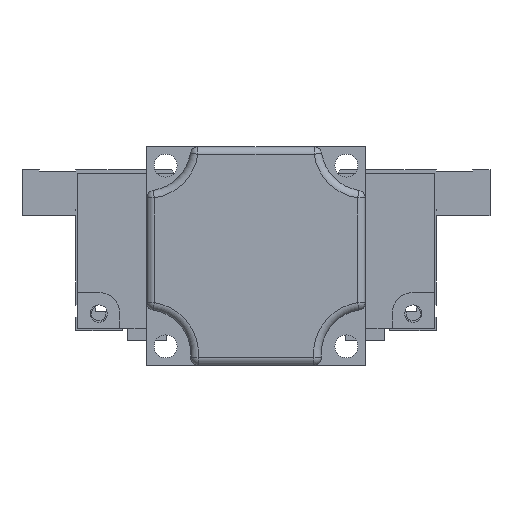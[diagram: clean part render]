
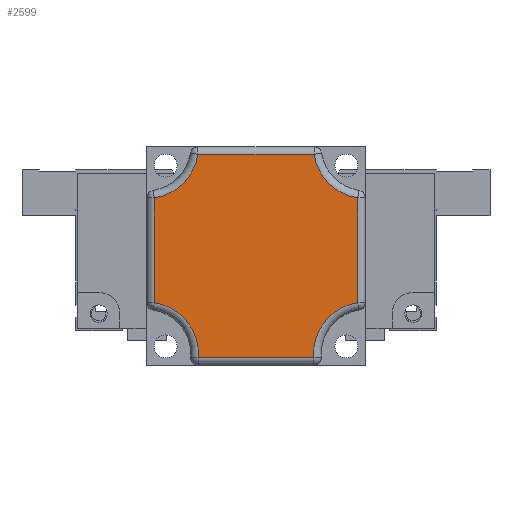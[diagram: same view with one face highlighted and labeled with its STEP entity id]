
A CAD part, front view. The second image highlights one B-rep face of the part: STEP entity #2599.
In plain terms, the highlighted planar face has unit normal (0, -1, 0).
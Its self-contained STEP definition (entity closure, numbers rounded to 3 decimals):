
#2538 = VERTEX_POINT ( 'NONE', #8473 ) ;
#2539 = ORIENTED_EDGE ( 'NONE', *, *, #2608, .T. ) ;
#2540 = EDGE_CURVE ( 'NONE', #2600, #2597, #8478, .T. ) ;
#2542 = EDGE_LOOP ( 'NONE', ( #2547, #2601, #2604, #2539, #2588, #2606, #2609, #2587 ) ) ;
#2547 = ORIENTED_EDGE ( 'NONE', *, *, #2555, .T. ) ;
#2549 = VERTEX_POINT ( 'NONE', #8464 ) ;
#2555 = EDGE_CURVE ( 'NONE', #2538, #2600, #8506, .T. ) ;
#2587 = ORIENTED_EDGE ( 'NONE', *, *, #2593, .T. ) ;
#2588 = ORIENTED_EDGE ( 'NONE', *, *, #2611, .T. ) ;
#2589 = EDGE_CURVE ( 'NONE', #2610, #2549, #8534, .T. ) ;
#2590 = VERTEX_POINT ( 'NONE', #8575 ) ;
#2591 = EDGE_CURVE ( 'NONE', #2549, #2590, #8536, .T. ) ;
#2593 = EDGE_CURVE ( 'NONE', #2590, #2538, #8527, .T. ) ;
#2597 = VERTEX_POINT ( 'NONE', #8556 ) ;
#2599 = ADVANCED_FACE ( 'NONE', ( #8552 ), #8564, .F. ) ;
#2600 = VERTEX_POINT ( 'NONE', #8558 ) ;
#2601 = ORIENTED_EDGE ( 'NONE', *, *, #2540, .T. ) ;
#2602 = VERTEX_POINT ( 'NONE', #8550 ) ;
#2604 = ORIENTED_EDGE ( 'NONE', *, *, #2605, .T. ) ;
#2605 = EDGE_CURVE ( 'NONE', #2597, #2602, #8601, .T. ) ;
#2606 = ORIENTED_EDGE ( 'NONE', *, *, #2589, .T. ) ;
#2607 = VERTEX_POINT ( 'NONE', #8549 ) ;
#2608 = EDGE_CURVE ( 'NONE', #2602, #2607, #8602, .T. ) ;
#2609 = ORIENTED_EDGE ( 'NONE', *, *, #2591, .T. ) ;
#2610 = VERTEX_POINT ( 'NONE', #8567 ) ;
#2611 = EDGE_CURVE ( 'NONE', #2607, #2610, #8594, .T. ) ;
#8464 = CARTESIAN_POINT ( 'NONE',  ( -26.5, -144.5, 13.649 ) ) ;
#8467 = DIRECTION ( 'NONE',  ( 0., 0., 1. ) ) ;
#8468 = DIRECTION ( 'NONE',  ( 0., 1., 0. ) ) ;
#8469 = CARTESIAN_POINT ( 'NONE',  ( 28.5, -144.5, -27. ) ) ;
#8470 = AXIS2_PLACEMENT_3D ( 'NONE', #8469, #8468, #8467 ) ;
#8473 = CARTESIAN_POINT ( 'NONE',  ( -15.037, -144.5, -28. ) ) ;
#8478 = CIRCLE ( 'NONE', #8470, 13.5 ) ;
#8503 = DIRECTION ( 'NONE',  ( 1., 0., 0. ) ) ;
#8504 = VECTOR ( 'NONE', #8503, 1000. ) ;
#8505 = CARTESIAN_POINT ( 'NONE',  ( 28.5, -144.5, -28. ) ) ;
#8506 = LINE ( 'NONE', #8505, #8504 ) ;
#8516 = AXIS2_PLACEMENT_3D ( 'NONE', #8574, #8555, #8554 ) ;
#8527 = CIRCLE ( 'NONE', #8516, 13.5 ) ;
#8534 = CIRCLE ( 'NONE', #8573, 13.5 ) ;
#8535 = CARTESIAN_POINT ( 'NONE',  ( -26.5, -144.5, 27. ) ) ;
#8536 = LINE ( 'NONE', #8535, #8566 ) ;
#8544 = CARTESIAN_POINT ( 'NONE',  ( 28.5, -144.5, 27. ) ) ;
#8548 = DIRECTION ( 'NONE',  ( 0., 0., 1. ) ) ;
#8549 = CARTESIAN_POINT ( 'NONE',  ( 15.149, -144.5, 25. ) ) ;
#8550 = CARTESIAN_POINT ( 'NONE',  ( 26.5, -144.5, 13.649 ) ) ;
#8552 = FACE_OUTER_BOUND ( 'NONE', #2542, .T. ) ;
#8553 = AXIS2_PLACEMENT_3D ( 'NONE', #8569, #8568, #8548 ) ;
#8554 = DIRECTION ( 'NONE',  ( 0., 0., 1. ) ) ;
#8555 = DIRECTION ( 'NONE',  ( 0., 1., 0. ) ) ;
#8556 = CARTESIAN_POINT ( 'NONE',  ( 26.5, -144.5, -13.649 ) ) ;
#8558 = CARTESIAN_POINT ( 'NONE',  ( 15.037, -144.5, -28. ) ) ;
#8564 = PLANE ( 'NONE',  #8553 ) ;
#8565 = DIRECTION ( 'NONE',  ( 0., 0., -1. ) ) ;
#8566 = VECTOR ( 'NONE', #8565, 1000. ) ;
#8567 = CARTESIAN_POINT ( 'NONE',  ( -15.149, -144.5, 25. ) ) ;
#8568 = DIRECTION ( 'NONE',  ( 0., 1., 0. ) ) ;
#8569 = CARTESIAN_POINT ( 'NONE',  ( 28.5, -144.5, 27. ) ) ;
#8570 = DIRECTION ( 'NONE',  ( 0., 0., 1. ) ) ;
#8571 = DIRECTION ( 'NONE',  ( 0., 1., 0. ) ) ;
#8572 = CARTESIAN_POINT ( 'NONE',  ( -28.5, -144.5, 27. ) ) ;
#8573 = AXIS2_PLACEMENT_3D ( 'NONE', #8572, #8571, #8570 ) ;
#8574 = CARTESIAN_POINT ( 'NONE',  ( -28.5, -144.5, -27. ) ) ;
#8575 = CARTESIAN_POINT ( 'NONE',  ( -26.5, -144.5, -13.649 ) ) ;
#8591 = DIRECTION ( 'NONE',  ( -1., 0., 0. ) ) ;
#8592 = VECTOR ( 'NONE', #8591, 1000. ) ;
#8593 = CARTESIAN_POINT ( 'NONE',  ( 28.5, -144.5, 25. ) ) ;
#8594 = LINE ( 'NONE', #8593, #8592 ) ;
#8595 = DIRECTION ( 'NONE',  ( 0., 0., 1. ) ) ;
#8596 = DIRECTION ( 'NONE',  ( 0., 1., 0. ) ) ;
#8597 = AXIS2_PLACEMENT_3D ( 'NONE', #8544, #8596, #8595 ) ;
#8598 = DIRECTION ( 'NONE',  ( 0., 0., 1. ) ) ;
#8599 = VECTOR ( 'NONE', #8598, 1000. ) ;
#8600 = CARTESIAN_POINT ( 'NONE',  ( 26.5, -144.5, 27. ) ) ;
#8601 = LINE ( 'NONE', #8600, #8599 ) ;
#8602 = CIRCLE ( 'NONE', #8597, 13.5 ) ;
